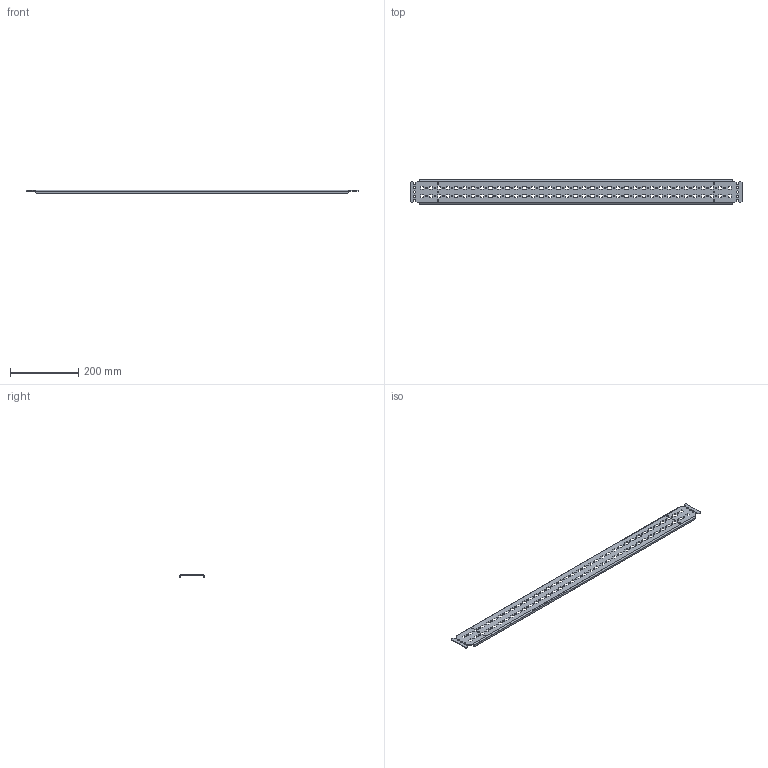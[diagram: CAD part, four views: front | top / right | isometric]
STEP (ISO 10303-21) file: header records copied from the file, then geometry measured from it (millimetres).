
FILE_DESCRIPTION (( 'STEP AP214' ), '1' );
FILE_NAME ('MG 100.06 R Ðåéêà ìîíòàæíàÿ.STEP', '2022-09-07T09:02:14', ( '' ), ( '' ), 'SwSTEP 2.0', 'SolidWorks 2018', '' );
FILE_SCHEMA (( 'AUTOMOTIVE_DESIGN' ));
Length unit declared in the file: millimetre
Products named in the file (1): MG 100.06 R Ðåéêà ìîíòàæíàÿ
Bounding box: 975 x 70.91 x 9.3 mm (x, y, z)
Volume: 143380.5 mm3; surface area: 155410.4 mm2
Topology: 1 solids, 1 shells, 818 faces, 2432 edges, 1616 vertices
Faces by surface type: cylinder 472, plane 346
Entity records: 28418 total; most frequent: DIRECTION 5014, CARTESIAN_POINT 4867, ORIENTED_EDGE 4864, EDGE_CURVE 2432, AXIS2_PLACEMENT_3D 1763, VERTEX_POINT 1616, VECTOR 1488, LINE 1488
